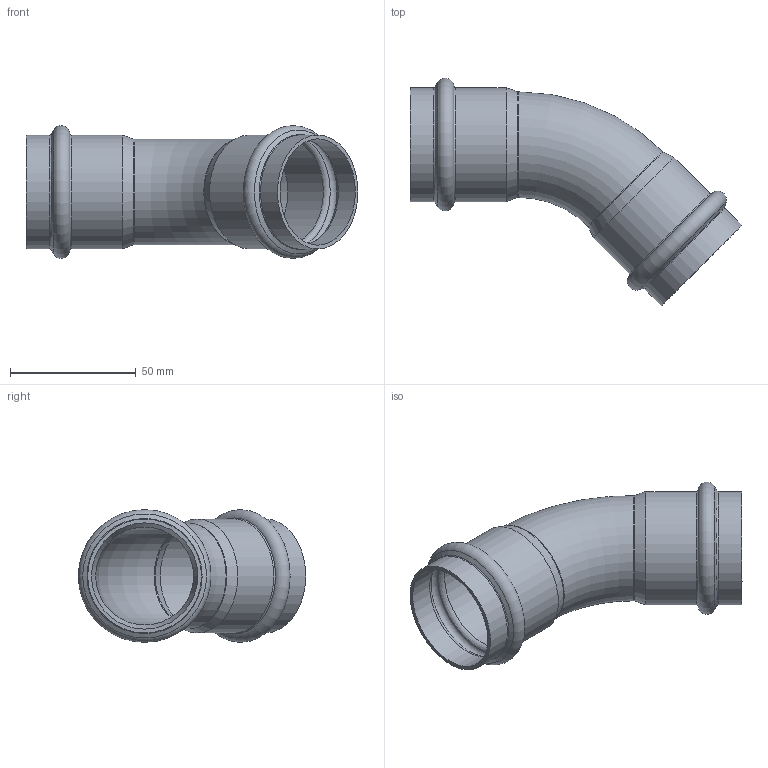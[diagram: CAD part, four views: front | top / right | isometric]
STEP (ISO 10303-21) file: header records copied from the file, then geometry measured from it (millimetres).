
FILE_DESCRIPTION((''),'2;1');
FILE_NAME('G:\Technics\CAD\Bauteile\042\6904142(1).stp','2008-03-04T09:43:33',('herberg'),(''),'Autodesk Inventor 2008','Autodesk Inventor 2008','');
FILE_SCHEMA(('AUTOMOTIVE_DESIGN { 1 0 10303 214 1 1 1 1 }'));
Length unit declared in the file: millimetre
Products named in the file (1): 6904142(1)
Bounding box: 132.1 x 90.5 x 52.8 mm (x, y, z)
Volume: 28869.9 mm3; surface area: 38905.1 mm2
Topology: 1 solids, 1 shells, 36 faces, 76 edges, 42 vertices
Faces by surface type: cylinder 12, cone 8, bspline 8, torus 6, plane 2
Full cylindrical faces by diameter (mm): 39 x2, 42 x2, 42.3 x4, 45.3 x4
Entity records: 1218 total; most frequent: CARTESIAN_POINT 605, DIRECTION 130, ORIENTED_EDGE 72, EDGE_LOOP 72, AXIS2_PLACEMENT_3D 65, VERTEX_POINT 36, CIRCLE 36, EDGE_CURVE 36
